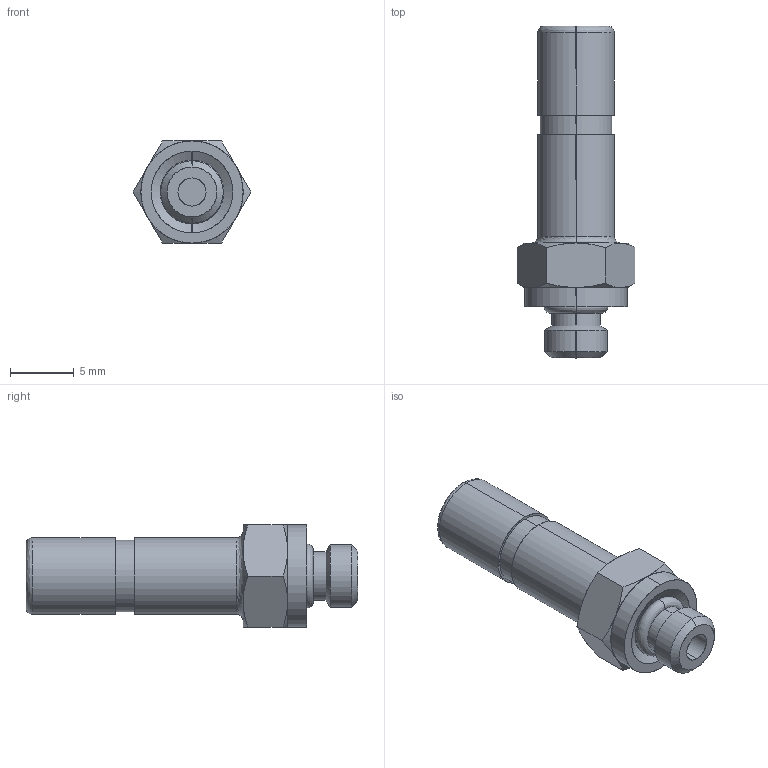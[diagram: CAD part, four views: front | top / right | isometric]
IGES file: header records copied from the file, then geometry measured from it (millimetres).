
Start section: SolidWorks IGES file using analytic representation for surfaces
Global section: file name: K:\Disegni Esecutivi\Serie 50000\ASSIEMI\50600\ASSIEMI_PIENI_50600\5060000015.IGS; native system: SolidWorks 2007; preprocessor: SolidWorks 2007; author: cad02; date: 071011.163656; units: millimetre
Bounding box: 9.24 x 26 x 8 mm (x, y, z)
Surface area: 710.6 mm2 (no closed solid volume)
Topology: 0 solids, 0 shells, 60 faces, 832 edges, 832 vertices
Faces by surface type: revolution 34, bspline 26
